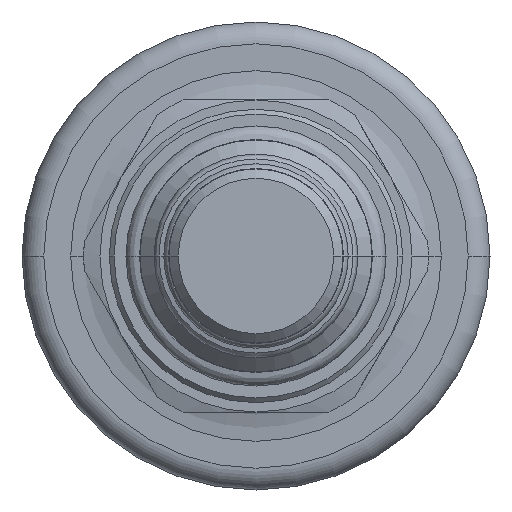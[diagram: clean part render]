
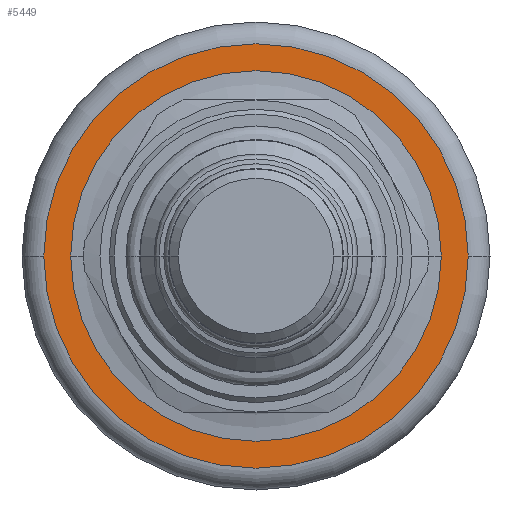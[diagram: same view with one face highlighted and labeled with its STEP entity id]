
A CAD part, front view. The second image highlights one B-rep face of the part: STEP entity #5449.
In plain terms, the highlighted planar face has unit normal (0, -1, 0).
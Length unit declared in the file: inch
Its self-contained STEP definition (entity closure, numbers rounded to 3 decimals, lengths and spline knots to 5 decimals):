
#2323=CARTESIAN_POINT('',(0.,3.218,0.));
#2324=DIRECTION('',(0.,1.,0.));
#2325=DIRECTION('',(1.,0.,0.));
#2326=AXIS2_PLACEMENT_3D('',#2323,#2324,#2325);
#2328=CARTESIAN_POINT('',(0.,3.218,0.));
#2329=DIRECTION('',(0.,-1.,0.));
#2330=DIRECTION('',(1.,0.,0.));
#2331=AXIS2_PLACEMENT_3D('',#2328,#2329,#2330);
#2333=CARTESIAN_POINT('',(0.,3.218,0.));
#2334=DIRECTION('',(0.,-1.,0.));
#2335=DIRECTION('',(1.,0.,0.));
#2336=AXIS2_PLACEMENT_3D('',#2333,#2334,#2335);
#2348=CARTESIAN_POINT('',(0.,3.218,0.));
#2349=DIRECTION('',(0.,1.,0.));
#2350=DIRECTION('',(1.,0.,0.));
#2351=AXIS2_PLACEMENT_3D('',#2348,#2349,#2350);
#2819=CARTESIAN_POINT('',(0.59375,3.218,0.));
#2820=VERTEX_POINT('',#2819);
#2821=CARTESIAN_POINT('',(0.68,3.218,0.));
#2823=VERTEX_POINT('',#2821);
#2831=CARTESIAN_POINT('',(-0.59375,3.218,0.));
#2832=VERTEX_POINT('',#2831);
#2833=CARTESIAN_POINT('',(-0.68,3.218,0.));
#2835=VERTEX_POINT('',#2833);
#5434=CARTESIAN_POINT('',(0.,3.218,0.));
#5435=DIRECTION('',(0.,-1.,0.));
#5436=DIRECTION('',(-1.,0.,0.));
#5437=AXIS2_PLACEMENT_3D('',#5434,#5435,#5436);
#5438=PLANE('',#5437);
#5440=ORIENTED_EDGE('',*,*,#5439,.F.);
#5442=ORIENTED_EDGE('',*,*,#5441,.T.);
#5443=EDGE_LOOP('',(#5440,#5442));
#5444=FACE_OUTER_BOUND('',#5443,.F.);
#5445=ORIENTED_EDGE('',*,*,#5427,.F.);
#5446=ORIENTED_EDGE('',*,*,#5416,.T.);
#5447=EDGE_LOOP('',(#5445,#5446));
#5448=FACE_BOUND('',#5447,.F.);
#5449=ADVANCED_FACE('',(#5444,#5448),#5438,.T.);
#2327=CIRCLE('',#2326,0.59375);
#2332=CIRCLE('',#2331,0.59375);
#2337=CIRCLE('',#2336,0.68);
#2352=CIRCLE('',#2351,0.68);
#5416=EDGE_CURVE('',#2820,#2832,#2332,.T.);
#5427=EDGE_CURVE('',#2820,#2832,#2327,.T.);
#5439=EDGE_CURVE('',#2823,#2835,#2337,.T.);
#5441=EDGE_CURVE('',#2823,#2835,#2352,.T.);
